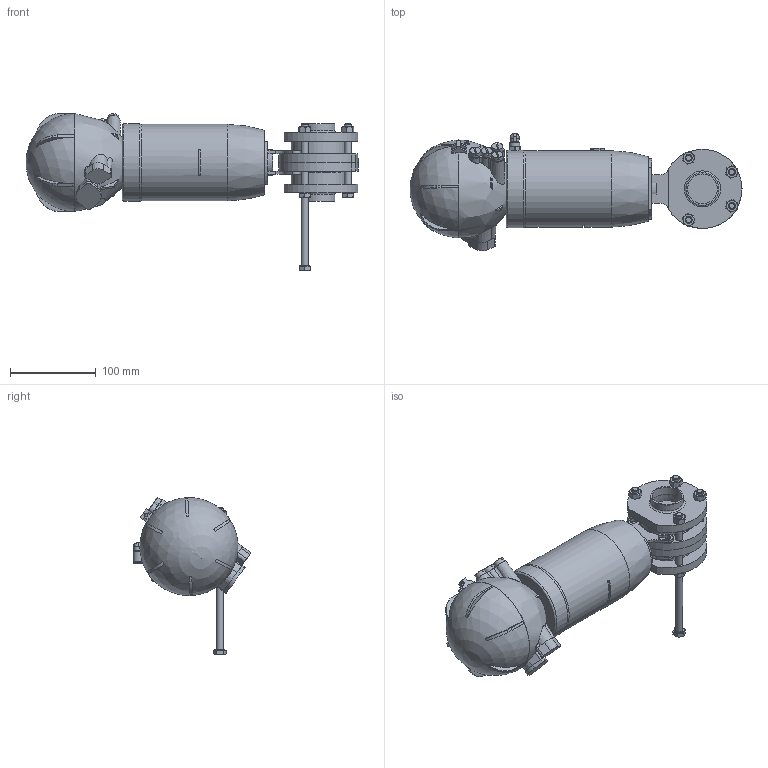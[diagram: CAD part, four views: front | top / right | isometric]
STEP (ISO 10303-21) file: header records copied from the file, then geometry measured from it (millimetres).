
FILE_DESCRIPTION(/* description */ ('ZVF V.FARF.DN38.1X1.65 WAF4 MACH83 SE NC 316 EPDM'),/* implementation_level */ '2;1');
FILE_NAME(/* name */ 'BEAAD9112BEBA-00^SAGOMA.step',/* time_stamp */ '2026-04-15T10:33:08+02:00',/* author */ (''),/* organization */ (''),/* preprocessor_version */ 'ST-DEVELOPER v20.1',/* originating_system */ 'Autodesk Inventor 2026',/* authorisation */ '');
FILE_SCHEMA (('CONFIG_CONTROL_DESIGN'));
Length unit declared in the file: millimetre
Products named in the file (8): BEAAD9112BEBA; UNI 5588 - M8; 3DAAZVFAA052; Supporto-farf-DN25-65-; UNI 5739 - M8 x 80; TWD030040BBA; TPM022112BBA; 3DAAJGIOAA007
Assembly tree (16 placements, depth 2):
  BEAAD9112BEBA
    TPM022112BBA  x2
    UNI 5588 - M8  x4
    UNI 5739 - M8 x 80  x5
    3DAAZVFAA052
    Supporto-farf-DN25-65-
    TWD030040BBA  x2
    3DAAJGIOAA007
Bounding box: 386.46 x 137.08 x 182.67 mm (x, y, z)
Volume: 2224741.1 mm3; surface area: 230038.4 mm2
Topology: 16 solids, 16 shells, 1197 faces, 3138 edges, 2042 vertices
Faces by surface type: plane 815, cylinder 162, cone 146, bspline 56, torus 17, sphere 1
Full cylindrical faces by diameter (mm): 2 x1, 3 x1, 4 x1, 4.917 x11, 6 x2, 6.2 x12, 6.647 x4, 7 x5, 7.8 x1, 8 x5, 8.2 x12, 8.3 x1, 8.566 x1, 10 x2, 10.376 x1, 11 x1, 11.5 x1, 11.63 x5, 13 x4, 18 x1, 18.5 x2, 24.5 x1, 25 x1, 26 x1, 30 x1, 30.3 x1, 34.8 x2, 38.1 x2, 63 x2, 82.8 x1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
Entity records: 35884 total; most frequent: CARTESIAN_POINT 8566, DIRECTION 5755, ORIENTED_EDGE 5470, EDGE_CURVE 2735, AXIS2_PLACEMENT_3D 2344, VERTEX_POINT 1804, EDGE_LOOP 1143, LINE 1067
